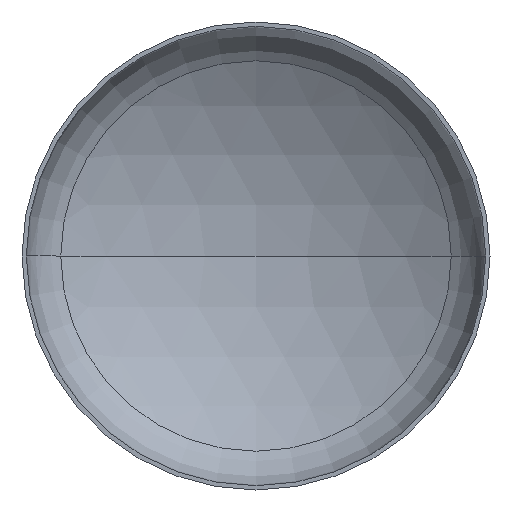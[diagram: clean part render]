
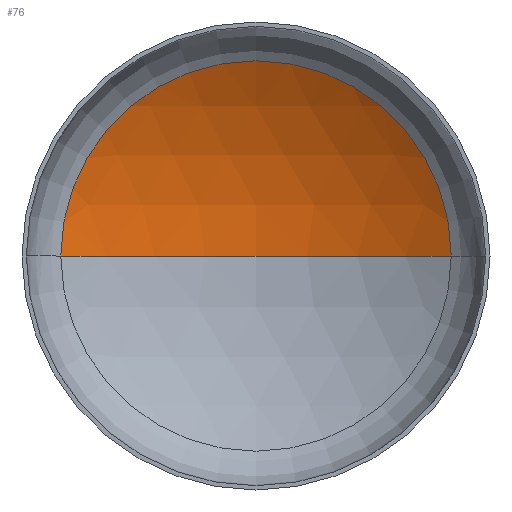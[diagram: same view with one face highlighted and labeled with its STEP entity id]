
A CAD part, front view. The second image highlights one B-rep face of the part: STEP entity #76.
In plain terms, the highlighted spherical face has radius 2080 mm.
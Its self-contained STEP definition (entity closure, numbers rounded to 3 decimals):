
#20 = AXIS2_PLACEMENT_3D ( 'NONE', #229, #210, #319 ) ;
#22 = AXIS2_PLACEMENT_3D ( 'NONE', #214, #294, #128 ) ;
#23 = ORIENTED_EDGE ( 'NONE', *, *, #347, .F. ) ;
#24 = EDGE_LOOP ( 'NONE', ( #23, #45, #112 ) ) ;
#25 = AXIS2_PLACEMENT_3D ( 'NONE', #223, #219, #222 ) ;
#27 = CARTESIAN_POINT ( 'NONE',  ( 0., 721.465, 0. ) ) ;
#33 = CARTESIAN_POINT ( 'NONE',  ( 1084.571, 416.318, 0. ) ) ;
#45 = ORIENTED_EDGE ( 'NONE', *, *, #68, .T. ) ;
#66 = EDGE_CURVE ( 'NONE', #138, #114, #315, .T. ) ;
#68 = EDGE_CURVE ( 'NONE', #116, #138, #311, .T. ) ;
#76 = ADVANCED_FACE ( 'NONE', ( #255 ), #186, .F. ) ;
#112 = ORIENTED_EDGE ( 'NONE', *, *, #66, .T. ) ;
#114 = VERTEX_POINT ( 'NONE', #193 ) ;
#116 = VERTEX_POINT ( 'NONE', #27 ) ;
#127 = CIRCLE ( 'NONE', #369, 2080. ) ;
#128 = DIRECTION ( 'NONE',  ( -1., 0., 0. ) ) ;
#138 = VERTEX_POINT ( 'NONE', #33 ) ;
#171 = DIRECTION ( 'NONE',  ( 1., 0., 0. ) ) ;
#186 = SPHERICAL_SURFACE ( 'NONE', #20, 2080. ) ;
#193 = CARTESIAN_POINT ( 'NONE',  ( -1084.571, 416.318, 0. ) ) ;
#210 = DIRECTION ( 'NONE',  ( 0., 0., -1. ) ) ;
#214 = CARTESIAN_POINT ( 'NONE',  ( 0., -1358.535, 0. ) ) ;
#219 = DIRECTION ( 'NONE',  ( 0., -1., 0. ) ) ;
#222 = DIRECTION ( 'NONE',  ( 1., 0., 0. ) ) ;
#223 = CARTESIAN_POINT ( 'NONE',  ( 0., 416.318, 0. ) ) ;
#229 = CARTESIAN_POINT ( 'NONE',  ( 0., -1358.535, 0. ) ) ;
#255 = FACE_OUTER_BOUND ( 'NONE', #24, .T. ) ;
#294 = DIRECTION ( 'NONE',  ( 0., 0., -1. ) ) ;
#311 = CIRCLE ( 'NONE', #22, 2080. ) ;
#315 = CIRCLE ( 'NONE', #25, 1084.571 ) ;
#319 = DIRECTION ( 'NONE',  ( -1., 0., 0. ) ) ;
#342 = DIRECTION ( 'NONE',  ( 0., 0., 1. ) ) ;
#347 = EDGE_CURVE ( 'NONE', #116, #114, #127, .T. ) ;
#369 = AXIS2_PLACEMENT_3D ( 'NONE', #405, #342, #171 ) ;
#405 = CARTESIAN_POINT ( 'NONE',  ( 0., -1358.535, 0. ) ) ;
